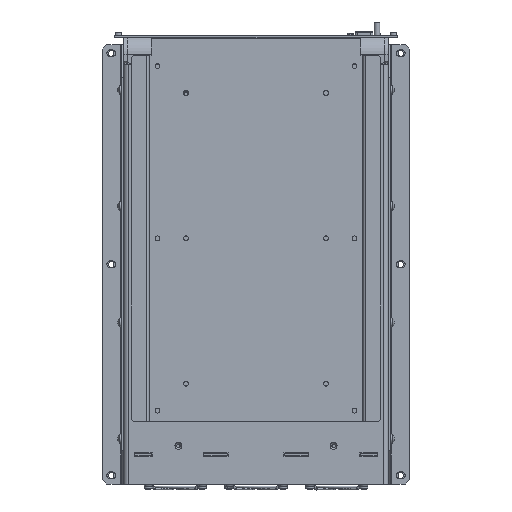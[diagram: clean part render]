
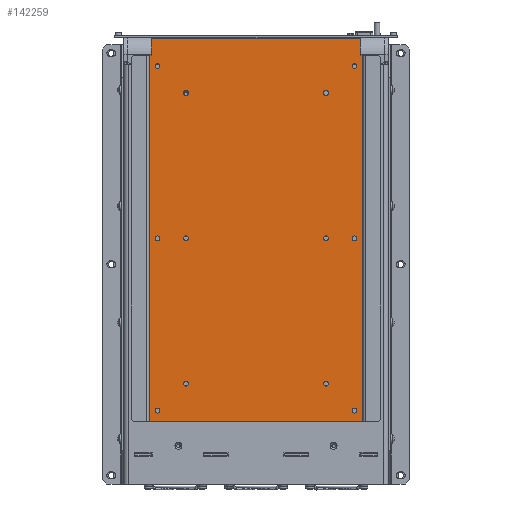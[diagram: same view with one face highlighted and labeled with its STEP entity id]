
A CAD part, top view. The second image highlights one B-rep face of the part: STEP entity #142259.
In plain terms, the highlighted planar face has unit normal (0, 0, 1) as drawn and (0, 1, 0) by its records, which use the part's own axes.
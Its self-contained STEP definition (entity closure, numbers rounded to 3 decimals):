
#6944=LINE('',#199414,#18668);
#6946=LINE('',#199419,#18670);
#6955=LINE('',#199462,#18679);
#6970=LINE('',#199509,#18694);
#6979=LINE('',#199533,#18703);
#7001=LINE('',#199584,#18725);
#7002=LINE('',#199586,#18726);
#7003=LINE('',#199587,#18727);
#18668=VECTOR('',#160816,1000.);
#18670=VECTOR('',#160822,1000.);
#18679=VECTOR('',#160861,1000.);
#18694=VECTOR('',#160896,1000.);
#18703=VECTOR('',#160913,1000.);
#18725=VECTOR('',#160971,1000.);
#18726=VECTOR('',#160974,1000.);
#18727=VECTOR('',#160975,1000.);
#37075=ORIENTED_EDGE('',*,*,#61954,.F.);
#37076=ORIENTED_EDGE('',*,*,#61866,.T.);
#37077=ORIENTED_EDGE('',*,*,#61914,.T.);
#37078=ORIENTED_EDGE('',*,*,#61955,.T.);
#37079=ORIENTED_EDGE('',*,*,#61925,.F.);
#37080=ORIENTED_EDGE('',*,*,#61953,.F.);
#37081=ORIENTED_EDGE('',*,*,#61891,.T.);
#37082=ORIENTED_EDGE('',*,*,#61869,.T.);
#37083=ORIENTED_EDGE('',*,*,#61956,.F.);
#37084=ORIENTED_EDGE('',*,*,#61957,.F.);
#37085=ORIENTED_EDGE('',*,*,#61958,.F.);
#37086=ORIENTED_EDGE('',*,*,#61959,.F.);
#37087=ORIENTED_EDGE('',*,*,#61960,.F.);
#37088=ORIENTED_EDGE('',*,*,#61961,.F.);
#37089=ORIENTED_EDGE('',*,*,#61962,.F.);
#37090=ORIENTED_EDGE('',*,*,#61963,.F.);
#37091=ORIENTED_EDGE('',*,*,#61964,.F.);
#37092=ORIENTED_EDGE('',*,*,#61965,.F.);
#37093=ORIENTED_EDGE('',*,*,#61966,.F.);
#37094=ORIENTED_EDGE('',*,*,#61967,.F.);
#61866=EDGE_CURVE('',#75251,#75254,#6944,.T.);
#61869=EDGE_CURVE('',#75256,#75255,#6946,.T.);
#61891=EDGE_CURVE('',#75275,#75256,#6955,.F.);
#61914=EDGE_CURVE('',#75254,#75296,#6970,.F.);
#61925=EDGE_CURVE('',#75307,#75308,#6979,.F.);
#61953=EDGE_CURVE('',#75275,#75307,#7001,.F.);
#61954=EDGE_CURVE('',#75251,#75255,#7002,.T.);
#61955=EDGE_CURVE('',#75296,#75308,#7003,.T.);
#61956=EDGE_CURVE('',#75319,#75319,#82202,.T.);
#61957=EDGE_CURVE('',#75320,#75320,#82203,.T.);
#61958=EDGE_CURVE('',#75321,#75321,#82204,.T.);
#61959=EDGE_CURVE('',#75322,#75322,#82205,.T.);
#61960=EDGE_CURVE('',#75323,#75323,#82206,.T.);
#61961=EDGE_CURVE('',#75324,#75324,#82207,.T.);
#61962=EDGE_CURVE('',#75325,#75325,#82208,.T.);
#61963=EDGE_CURVE('',#75326,#75326,#82209,.T.);
#61964=EDGE_CURVE('',#75327,#75327,#82210,.T.);
#61965=EDGE_CURVE('',#75328,#75328,#82211,.T.);
#61966=EDGE_CURVE('',#75329,#75329,#82212,.T.);
#61967=EDGE_CURVE('',#75330,#75330,#82213,.T.);
#75251=VERTEX_POINT('',#199406);
#75254=VERTEX_POINT('',#199413);
#75255=VERTEX_POINT('',#199418);
#75256=VERTEX_POINT('',#199420);
#75275=VERTEX_POINT('',#199463);
#75296=VERTEX_POINT('',#199508);
#75307=VERTEX_POINT('',#199532);
#75308=VERTEX_POINT('',#199534);
#75319=VERTEX_POINT('',#199589);
#75320=VERTEX_POINT('',#199591);
#75321=VERTEX_POINT('',#199593);
#75322=VERTEX_POINT('',#199595);
#75323=VERTEX_POINT('',#199597);
#75324=VERTEX_POINT('',#199599);
#75325=VERTEX_POINT('',#199601);
#75326=VERTEX_POINT('',#199603);
#75327=VERTEX_POINT('',#199605);
#75328=VERTEX_POINT('',#199607);
#75329=VERTEX_POINT('',#199609);
#75330=VERTEX_POINT('',#199611);
#82202=CIRCLE('',#148318,2.25);
#82203=CIRCLE('',#148319,2.25);
#82204=CIRCLE('',#148320,2.25);
#82205=CIRCLE('',#148321,2.25);
#82206=CIRCLE('',#148322,2.25);
#82207=CIRCLE('',#148323,2.25);
#82208=CIRCLE('',#148324,2.25);
#82209=CIRCLE('',#148325,2.25);
#82210=CIRCLE('',#148326,2.25);
#82211=CIRCLE('',#148327,2.25);
#82212=CIRCLE('',#148328,2.25);
#82213=CIRCLE('',#148329,2.25);
#85880=EDGE_LOOP('',(#37075,#37076,#37077,#37078,#37079,#37080,#37081,#37082));
#85881=EDGE_LOOP('',(#37083));
#85882=EDGE_LOOP('',(#37084));
#85883=EDGE_LOOP('',(#37085));
#85884=EDGE_LOOP('',(#37086));
#85885=EDGE_LOOP('',(#37087));
#85886=EDGE_LOOP('',(#37088));
#85887=EDGE_LOOP('',(#37089));
#85888=EDGE_LOOP('',(#37090));
#85889=EDGE_LOOP('',(#37091));
#85890=EDGE_LOOP('',(#37092));
#85891=EDGE_LOOP('',(#37093));
#85892=EDGE_LOOP('',(#37094));
#92967=FACE_BOUND('',#85880,.T.);
#92968=FACE_BOUND('',#85881,.T.);
#92969=FACE_BOUND('',#85882,.T.);
#92970=FACE_BOUND('',#85883,.T.);
#92971=FACE_BOUND('',#85884,.T.);
#92972=FACE_BOUND('',#85885,.T.);
#92973=FACE_BOUND('',#85886,.T.);
#92974=FACE_BOUND('',#85887,.T.);
#92975=FACE_BOUND('',#85888,.T.);
#92976=FACE_BOUND('',#85889,.T.);
#92977=FACE_BOUND('',#85890,.T.);
#92978=FACE_BOUND('',#85891,.T.);
#92979=FACE_BOUND('',#85892,.T.);
#98932=PLANE('',#148317);
#142259=ADVANCED_FACE('',(#92967,#92968,#92969,#92970,#92971,#92972,#92973,
#92974,#92975,#92976,#92977,#92978,#92979),#98932,.T.);
#148317=AXIS2_PLACEMENT_3D('',#199585,#160972,#160973);
#148318=AXIS2_PLACEMENT_3D('',#199588,#160976,#160977);
#148319=AXIS2_PLACEMENT_3D('',#199590,#160978,#160979);
#148320=AXIS2_PLACEMENT_3D('',#199592,#160980,#160981);
#148321=AXIS2_PLACEMENT_3D('',#199594,#160982,#160983);
#148322=AXIS2_PLACEMENT_3D('',#199596,#160984,#160985);
#148323=AXIS2_PLACEMENT_3D('',#199598,#160986,#160987);
#148324=AXIS2_PLACEMENT_3D('',#199600,#160988,#160989);
#148325=AXIS2_PLACEMENT_3D('',#199602,#160990,#160991);
#148326=AXIS2_PLACEMENT_3D('',#199604,#160992,#160993);
#148327=AXIS2_PLACEMENT_3D('',#199606,#160994,#160995);
#148328=AXIS2_PLACEMENT_3D('',#199608,#160996,#160997);
#148329=AXIS2_PLACEMENT_3D('',#199610,#160998,#160999);
#160816=DIRECTION('',(0.,0.,-1.));
#160822=DIRECTION('',(0.,0.,1.));
#160861=DIRECTION('',(-1.,0.,0.));
#160896=DIRECTION('',(-1.,0.,0.));
#160913=DIRECTION('',(-1.,0.,0.));
#160971=DIRECTION('',(0.,0.,1.));
#160972=DIRECTION('',(0.,1.,0.));
#160973=DIRECTION('',(-1.,0.,0.));
#160974=DIRECTION('',(-1.,0.,0.));
#160975=DIRECTION('',(0.,0.,-1.));
#160976=DIRECTION('',(0.,1.,0.));
#160977=DIRECTION('',(0.,0.,-1.));
#160978=DIRECTION('',(0.,1.,0.));
#160979=DIRECTION('',(0.,0.,-1.));
#160980=DIRECTION('',(0.,1.,0.));
#160981=DIRECTION('',(0.,0.,-1.));
#160982=DIRECTION('',(0.,1.,0.));
#160983=DIRECTION('',(0.,0.,-1.));
#160984=DIRECTION('',(0.,1.,0.));
#160985=DIRECTION('',(0.,0.,-1.));
#160986=DIRECTION('',(0.,1.,0.));
#160987=DIRECTION('',(0.,0.,-1.));
#160988=DIRECTION('',(0.,1.,0.));
#160989=DIRECTION('',(0.,0.,-1.));
#160990=DIRECTION('',(0.,1.,0.));
#160991=DIRECTION('',(0.,0.,-1.));
#160992=DIRECTION('',(0.,1.,0.));
#160993=DIRECTION('',(0.,0.,-1.));
#160994=DIRECTION('',(0.,1.,0.));
#160995=DIRECTION('',(0.,0.,-1.));
#160996=DIRECTION('',(0.,1.,0.));
#160997=DIRECTION('',(0.,0.,-1.));
#160998=DIRECTION('',(0.,1.,0.));
#160999=DIRECTION('',(0.,0.,-1.));
#199406=CARTESIAN_POINT('',(97.5,1.5,15.5));
#199413=CARTESIAN_POINT('',(97.5,1.5,0.));
#199414=CARTESIAN_POINT('',(97.5,1.5,18.));
#199418=CARTESIAN_POINT('',(-97.5,1.5,15.5));
#199419=CARTESIAN_POINT('',(-97.5,1.5,0.));
#199420=CARTESIAN_POINT('',(-97.5,1.5,0.));
#199462=CARTESIAN_POINT('',(-101.,1.5,0.));
#199463=CARTESIAN_POINT('',(-99.,1.5,0.));
#199508=CARTESIAN_POINT('',(99.,1.5,0.));
#199509=CARTESIAN_POINT('',(-101.,1.5,0.));
#199532=CARTESIAN_POINT('',(-99.,1.5,-340.));
#199533=CARTESIAN_POINT('',(-101.,1.5,-340.));
#199534=CARTESIAN_POINT('',(99.,1.5,-340.));
#199584=CARTESIAN_POINT('',(-99.,1.5,0.));
#199585=CARTESIAN_POINT('',(-101.,1.5,0.));
#199586=CARTESIAN_POINT('',(97.5,1.5,15.5));
#199587=CARTESIAN_POINT('',(99.,1.5,0.));
#199588=CARTESIAN_POINT('',(65.,1.5,-305.));
#199589=CARTESIAN_POINT('',(65.,1.5,-307.25));
#199590=CARTESIAN_POINT('',(65.,1.5,-170.));
#199591=CARTESIAN_POINT('',(65.,1.5,-172.25));
#199592=CARTESIAN_POINT('',(65.,1.5,-35.));
#199593=CARTESIAN_POINT('',(65.,1.5,-37.25));
#199594=CARTESIAN_POINT('',(-65.,1.5,-35.));
#199595=CARTESIAN_POINT('',(-65.,1.5,-37.25));
#199596=CARTESIAN_POINT('',(-65.,1.5,-170.));
#199597=CARTESIAN_POINT('',(-65.,1.5,-172.25));
#199598=CARTESIAN_POINT('',(-65.,1.5,-305.));
#199599=CARTESIAN_POINT('',(-65.,1.5,-307.25));
#199600=CARTESIAN_POINT('',(91.5,1.5,-10.));
#199601=CARTESIAN_POINT('',(91.5,1.5,-12.25));
#199602=CARTESIAN_POINT('',(91.5,1.5,-170.));
#199603=CARTESIAN_POINT('',(91.5,1.5,-172.25));
#199604=CARTESIAN_POINT('',(91.5,1.5,-330.));
#199605=CARTESIAN_POINT('',(91.5,1.5,-332.25));
#199606=CARTESIAN_POINT('',(-91.5,1.5,-330.));
#199607=CARTESIAN_POINT('',(-91.5,1.5,-332.25));
#199608=CARTESIAN_POINT('',(-91.5,1.5,-170.));
#199609=CARTESIAN_POINT('',(-91.5,1.5,-172.25));
#199610=CARTESIAN_POINT('',(-91.5,1.5,-10.));
#199611=CARTESIAN_POINT('',(-91.5,1.5,-12.25));
